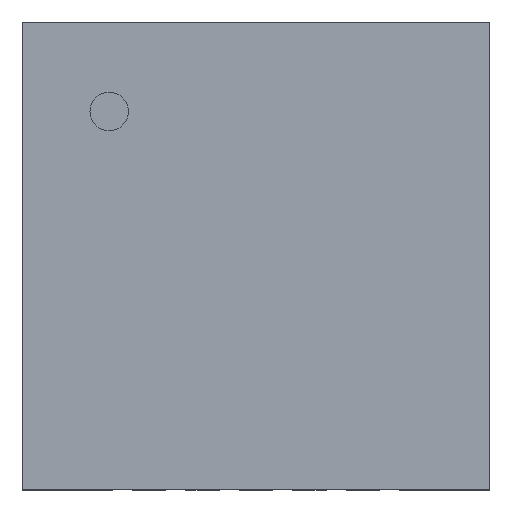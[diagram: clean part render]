
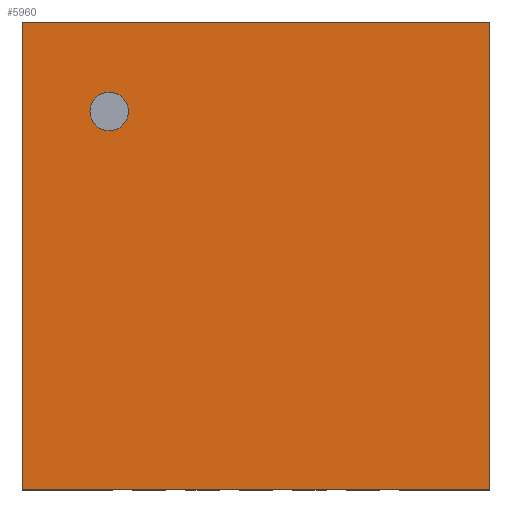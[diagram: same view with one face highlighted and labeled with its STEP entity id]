
A CAD part, top view. The second image highlights one B-rep face of the part: STEP entity #5960.
In plain terms, the highlighted planar face has unit normal (0, 0, 1).
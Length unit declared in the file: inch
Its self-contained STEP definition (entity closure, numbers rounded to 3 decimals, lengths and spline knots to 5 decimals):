
#59 = DIRECTION ( 'NONE',  ( 0., 1., 0. ) ) ;
#394 = DIRECTION ( 'NONE',  ( 0., 0., -1. ) ) ;
#456 = VECTOR ( 'NONE', #4052, 39.37008 ) ;
#476 = CARTESIAN_POINT ( 'NONE',  ( 0., 0., 0.17079 ) ) ;
#602 = ORIENTED_EDGE ( 'NONE', *, *, #3808, .F. ) ;
#912 = LINE ( 'NONE', #4127, #456 ) ;
#934 = DIRECTION ( 'NONE',  ( 0., 0., 1. ) ) ;
#1007 = PLANE ( 'NONE',  #1294 ) ;
#1156 = EDGE_LOOP ( 'NONE', ( #3062, #602 ) ) ;
#1249 = LINE ( 'NONE', #1840, #3875 ) ;
#1294 = AXIS2_PLACEMENT_3D ( 'NONE', #476, #394, #6036 ) ;
#1471 = VERTEX_POINT ( 'NONE', #7211 ) ;
#1738 = ORIENTED_EDGE ( 'NONE', *, *, #4443, .F. ) ;
#1840 = CARTESIAN_POINT ( 'NONE',  ( 0.01389, 0., 0.17079 ) ) ;
#2285 = FACE_BOUND ( 'NONE', #1156, .T. ) ;
#2291 = EDGE_CURVE ( 'NONE', #3906, #1471, #2541, .T. ) ;
#2338 = CARTESIAN_POINT ( 'NONE',  ( 0.05381, 0.22946, 0.17079 ) ) ;
#2417 = VERTEX_POINT ( 'NONE', #5430 ) ;
#2490 = DIRECTION ( 'NONE',  ( 1., 0., 0. ) ) ;
#2541 = CIRCLE ( 'NONE', #3059, 0.01132 ) ;
#2544 = ORIENTED_EDGE ( 'NONE', *, *, #2904, .F. ) ;
#2756 = VECTOR ( 'NONE', #5539, 39.37008 ) ;
#2787 = DIRECTION ( 'NONE',  ( 0., 0., 1. ) ) ;
#2904 = EDGE_CURVE ( 'NONE', #4533, #5657, #1249, .T. ) ;
#3059 = AXIS2_PLACEMENT_3D ( 'NONE', #3403, #2787, #6007 ) ;
#3062 = ORIENTED_EDGE ( 'NONE', *, *, #2291, .F. ) ;
#3266 = CARTESIAN_POINT ( 'NONE',  ( 0.01389, 0.00661, 0.17079 ) ) ;
#3403 = CARTESIAN_POINT ( 'NONE',  ( 0.06513, 0.22946, 0.17079 ) ) ;
#3580 = VERTEX_POINT ( 'NONE', #6762 ) ;
#3808 = EDGE_CURVE ( 'NONE', #1471, #3906, #4148, .T. ) ;
#3875 = VECTOR ( 'NONE', #59, 39.37008 ) ;
#3906 = VERTEX_POINT ( 'NONE', #2338 ) ;
#4052 = DIRECTION ( 'NONE',  ( 0., -1., 0. ) ) ;
#4072 = CARTESIAN_POINT ( 'NONE',  ( 0.06513, 0.22946, 0.17079 ) ) ;
#4127 = CARTESIAN_POINT ( 'NONE',  ( 0.28948, 0., 0.17079 ) ) ;
#4148 = CIRCLE ( 'NONE', #4800, 0.01132 ) ;
#4303 = CARTESIAN_POINT ( 'NONE',  ( 0., 0.2822, 0.17079 ) ) ;
#4443 = EDGE_CURVE ( 'NONE', #5657, #2417, #5623, .T. ) ;
#4533 = VERTEX_POINT ( 'NONE', #3266 ) ;
#4641 = EDGE_CURVE ( 'NONE', #2417, #3580, #912, .T. ) ;
#4800 = AXIS2_PLACEMENT_3D ( 'NONE', #4072, #934, #7732 ) ;
#4935 = VECTOR ( 'NONE', #2490, 39.37008 ) ;
#5430 = CARTESIAN_POINT ( 'NONE',  ( 0.28948, 0.2822, 0.17079 ) ) ;
#5539 = DIRECTION ( 'NONE',  ( -1., 0., 0. ) ) ;
#5623 = LINE ( 'NONE', #4303, #4935 ) ;
#5657 = VERTEX_POINT ( 'NONE', #6091 ) ;
#5960 = ADVANCED_FACE ( 'NONE', ( #2285, #7887 ), #1007, .F. ) ;
#6007 = DIRECTION ( 'NONE',  ( -1., 0., 0. ) ) ;
#6036 = DIRECTION ( 'NONE',  ( 0., -1., 0. ) ) ;
#6091 = CARTESIAN_POINT ( 'NONE',  ( 0.01389, 0.2822, 0.17079 ) ) ;
#6157 = CARTESIAN_POINT ( 'NONE',  ( 0., 0.00661, 0.17079 ) ) ;
#6158 = ORIENTED_EDGE ( 'NONE', *, *, #4641, .F. ) ;
#6762 = CARTESIAN_POINT ( 'NONE',  ( 0.28948, 0.00661, 0.17079 ) ) ;
#7211 = CARTESIAN_POINT ( 'NONE',  ( 0.07645, 0.22946, 0.17079 ) ) ;
#7390 = LINE ( 'NONE', #6157, #2756 ) ;
#7732 = DIRECTION ( 'NONE',  ( -1., 0., 0. ) ) ;
#7887 = FACE_OUTER_BOUND ( 'NONE', #8121, .T. ) ;
#7889 = ORIENTED_EDGE ( 'NONE', *, *, #8135, .F. ) ;
#8121 = EDGE_LOOP ( 'NONE', ( #6158, #1738, #2544, #7889 ) ) ;
#8135 = EDGE_CURVE ( 'NONE', #3580, #4533, #7390, .T. ) ;
